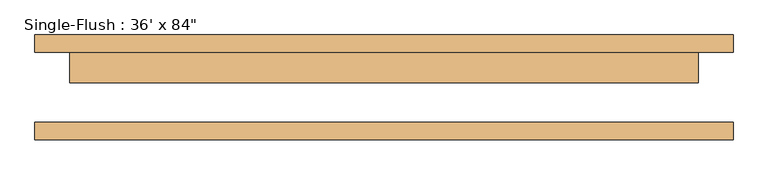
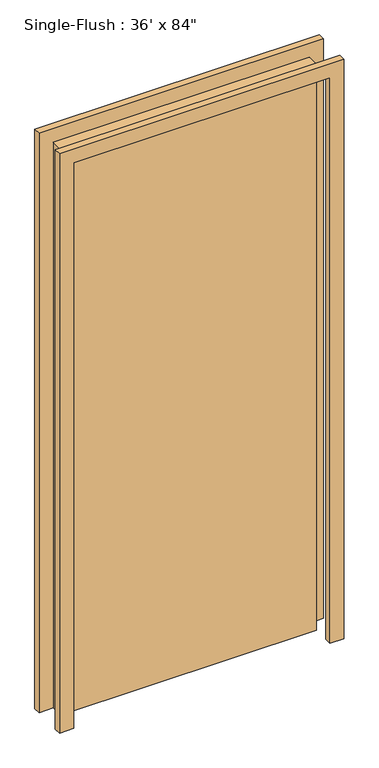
"""IFC4 building model written with IfcOpenShell, lengths in millimetres: door geometry."""

import ifcopenshell
import ifcopenshell.guid

model = None  # the IFC model being written
_history = None  # IfcOwnerHistory: only IFC2X3 demands one
_inside = {}  # id of a spatial element -> (the spatial element, [elements in it])
_under = {}  # id of a project, library or spatial element -> (it, [spatial elements below it])
_declared = {}  # id of a project -> (the project, [libraries it declares])
_typed = {}  # id of a type object -> (the type object, [elements of that type])
_made_of = {}  # id of a material, layer set ... -> (it, [elements and type objects made of it])


def new_model(schema):
    """Start an empty IFC model of exactly this schema.

    Asked for "IFC4X3", IfcOpenShell would pick the latest addendum, in which some entities
    have other attributes; the version numbers below select the first issue.
    IFC2X3 requires an IfcOwnerHistory on every rooted entity: one is made here for all.
    """
    global model, _history
    if schema == "IFC4X3":
        model = ifcopenshell.file(schema_version=(4, 3, 0, 0))
    else:
        model = ifcopenshell.file(schema=schema)
    _inside.clear()
    _under.clear()
    _declared.clear()
    _typed.clear()
    _made_of.clear()
    _history = None
    if model.schema == "IFC2X3":
        org = make("IfcOrganization", Name="unknown")
        user = make(
            "IfcPersonAndOrganization",
            ThePerson=make("IfcPerson", FamilyName="unknown"),
            TheOrganization=org,
        )
        app = make(
            "IfcApplication",
            ApplicationDeveloper=org,
            Version="unknown",
            ApplicationFullName="unknown",
            ApplicationIdentifier="unknown",
        )
        _history = make(
            "IfcOwnerHistory",
            OwningUser=user,
            OwningApplication=app,
            ChangeAction="ADDED",
            CreationDate=0,
        )
    return model


def make(cls, **values):
    """One entity of the class cls with the attributes given. An attribute that is None is left unset."""
    return model.create_entity(
        cls, **{name: value for name, value in values.items() if value is not None}
    )


def rooted(cls, **values):
    """An entity with a GlobalId (a new one), such as an element, a storey or a relation."""
    return make(cls, GlobalId=ifcopenshell.guid.new(), OwnerHistory=_history, **values)


def si_unit(unit_type, name, prefix=None):
    """IfcSIUnit, for example si_unit("LENGTHUNIT", "METRE", prefix="MILLI")."""
    return make("IfcSIUnit", UnitType=unit_type, Prefix=prefix, Name=name)


def assignment(units):
    """IfcUnitAssignment: the units of a project."""
    return None if units is None else make("IfcUnitAssignment", Units=units)


def point(xyz):
    """IfcCartesianPoint."""
    return None if xyz is None else make("IfcCartesianPoint", Coordinates=xyz)


def direction(xyz):
    """IfcDirection."""
    return None if xyz is None else make("IfcDirection", DirectionRatios=xyz)


def frame(location, z_axis=None, x_axis=None):
    """IfcAxis2Placement3D, a coordinate frame: its origin and axes. An axis left out is left unset."""
    return make(
        "IfcAxis2Placement3D",
        Location=point(location),
        Axis=direction(z_axis),
        RefDirection=direction(x_axis),
    )


def origin():
    """The frame at (0, 0, 0) with its axes left unset."""
    return frame((0.0, 0.0, 0.0))


def origin_with_axes():
    """The frame at (0, 0, 0) with the z axis (0, 0, 1) and the x axis (1, 0, 0) written out."""
    return frame((0.0, 0.0, 0.0), z_axis=(0.0, 0.0, 1.0), x_axis=(1.0, 0.0, 0.0))


def place(relative_to, where):
    """IfcLocalPlacement: puts the frame where relative to a parent placement (None: the world)."""
    return make(
        "IfcLocalPlacement", PlacementRelTo=relative_to, RelativePlacement=where
    )


def context(
    kind, dimensions, precision=None, world=None, true_north=None, identifier=None
):
    """IfcGeometricRepresentationContext, for example the 3D "Model" context."""
    return make(
        "IfcGeometricRepresentationContext",
        ContextIdentifier=identifier,
        ContextType=kind,
        CoordinateSpaceDimension=dimensions,
        Precision=precision,
        WorldCoordinateSystem=world,
        TrueNorth=true_north,
    )


def project(units=None, contexts=None):
    """IfcProject with its units and contexts."""
    return rooted(
        "IfcProject",
        Name="project",
        RepresentationContexts=contexts,
        UnitsInContext=assignment(units),
    )


def spatial(cls, under=None, at=None, **own):
    """A site, building, storey or space (cls), placed at a placement, below another one or the project."""
    s = rooted(cls, ObjectPlacement=at, **own)
    if under is not None:
        _under.setdefault(under.id(), (under, []))[1].append(s)
    return s


def polyline(points):
    """IfcPolyline through the points."""
    return make("IfcPolyline", Points=[point(p) for p in points])


def outline(outer, holes=None, kind="AREA"):
    """IfcArbitraryClosedProfileDef: a profile drawn as a closed curve; with holes, ...WithVoids."""
    if holes is None:
        return make("IfcArbitraryClosedProfileDef", ProfileType=kind, OuterCurve=outer)
    return make(
        "IfcArbitraryProfileDefWithVoids",
        ProfileType=kind,
        OuterCurve=outer,
        InnerCurves=holes,
    )


def extrude(swept, where, along, depth):
    """IfcExtrudedAreaSolid: the profile swept, set in the frame where, extruded along a direction by depth."""
    return make(
        "IfcExtrudedAreaSolid",
        SweptArea=swept,
        Position=where,
        ExtrudedDirection=direction(along),
        Depth=depth,
    )


def shape(context_of_items, identifier, shape_type, items):
    """IfcShapeRepresentation: the items that make up one representation, for example the "Body"."""
    return make(
        "IfcShapeRepresentation",
        ContextOfItems=context_of_items,
        RepresentationIdentifier=identifier,
        RepresentationType=shape_type,
        Items=items,
    )


def source(mapping_origin, context_of_items, identifier, shape_type, items):
    """IfcRepresentationMap: a shape defined once, which mapped items show again and again."""
    return make(
        "IfcRepresentationMap",
        MappingOrigin=mapping_origin,
        MappedRepresentation=shape(context_of_items, identifier, shape_type, items),
    )


def transform(
    local_origin,
    x_axis=None,
    y_axis=None,
    z_axis=None,
    scale=None,
    scale2=None,
    scale3=None,
    uniform=True,
):
    """IfcCartesianTransformationOperator3D, or its non-uniform kind. x_axis, y_axis, z_axis: its Axis1, 2, 3."""
    if uniform:
        return make(
            "IfcCartesianTransformationOperator3D",
            Axis1=direction(x_axis),
            Axis2=direction(y_axis),
            LocalOrigin=point(local_origin),
            Scale=scale,
            Axis3=direction(z_axis),
        )
    return make(
        "IfcCartesianTransformationOperator3DnonUniform",
        Axis1=direction(x_axis),
        Axis2=direction(y_axis),
        LocalOrigin=point(local_origin),
        Scale=scale,
        Axis3=direction(z_axis),
        Scale2=scale2,
        Scale3=scale3,
    )


def mapped(mapping_source, mapping_target):
    """IfcMappedItem: shows the shape of a source again, moved by a transform."""
    return make(
        "IfcMappedItem", MappingSource=mapping_source, MappingTarget=mapping_target
    )


def made_of(thing, what):
    """Note that an element or type object is made of a material, layer set ...; save() writes the relation."""
    if what is not None:
        _made_of.setdefault(what.id(), (what, []))[1].append(thing)
    return thing


def element(
    cls,
    number,
    at=None,
    inside=None,
    cuts=None,
    type_object=None,
    material=None,
    context=None,
    identifier="Body",
    shape_type=None,
    held_by="IfcProductDefinitionShape",
    body=None,
    shapes=None,
    **own,
):
    """One element of the class cls, such as IfcWall. Its Tag is "e" and its number.

    at: its placement. inside: the storey or other place that contains it. cuts: it is an
    opening in that element (IfcRelVoidsElement). A single representation is given by context,
    identifier, shape_type and body (its items); several are given by shapes. held_by: the class
    of the entity that holds the representations. save() writes the other relations.
    """
    e = rooted(cls, Tag="e%d" % number, ObjectPlacement=at, **own)
    if body is not None:
        shapes = [shape(context, identifier, shape_type, body)]
    if shapes is not None:
        e.Representation = make(held_by, Representations=shapes)
    if inside is not None:
        _inside.setdefault(inside.id(), (inside, []))[1].append(e)
    if cuts is not None:
        rooted(
            "IfcRelVoidsElement", RelatingBuildingElement=cuts, RelatedOpeningElement=e
        )
    if type_object is not None:
        _typed.setdefault(type_object.id(), (type_object, []))[1].append(e)
    return made_of(e, material)


def aggregate(whole, parts):
    """IfcRelAggregates: a whole, such as a stair, and the parts it consists of."""
    return rooted("IfcRelAggregates", RelatingObject=whole, RelatedObjects=parts)


def save(model, path):
    """Write the relations noted so far, then the file.

    IfcRelAggregates (storeys below a building ...), IfcRelContainedInSpatialStructure (elements
    in a storey), IfcRelDefinesByType, IfcRelAssociatesMaterial and IfcRelDeclares: one each for
    every whole, place, type object, material and project.
    """
    for whole, parts in _under.values():
        aggregate(whole, parts)
    for where, things in _inside.values():
        rooted(
            "IfcRelContainedInSpatialStructure",
            RelatedElements=things,
            RelatingStructure=where,
        )
    for kind, things in _typed.values():
        rooted("IfcRelDefinesByType", RelatedObjects=things, RelatingType=kind)
    for what, things in _made_of.values():
        rooted("IfcRelAssociatesMaterial", RelatedObjects=things, RelatingMaterial=what)
    for by, libraries in _declared.values():
        rooted("IfcRelDeclares", RelatingContext=by, RelatedDefinitions=libraries)
    model.write(path)


def door_30197504(model_context):
    return source(origin(), model_context, "Body", "SweptSolid", [
        extrude(outline(polyline([(2184.4, -508.0), (0.0, -508.0), (0.0, -457.2), (2133.6, -457.2), (2133.6, 457.2), (0.0, 457.2), (0.0, 508.0), (2184.4, 508.0), (2184.4, -508.0)])), frame((0.0, 50.8, 0.0), z_axis=(0.0, 1.0, 0.0), x_axis=(0.0, 0.0, 1.0)), (0.0, 0.0, 1.0), 25.4),
        extrude(outline(polyline([(2184.4, 508.0), (2184.4, -508.0), (0.0, -508.0), (0.0, -457.2), (2133.6, -457.2), (2133.6, 457.2), (0.0, 457.2), (0.0, 508.0), (2184.4, 508.0)])), frame((0.0, -76.2, 0.0), z_axis=(0.0, 1.0, 0.0), x_axis=(0.0, 0.0, 1.0)), (0.0, 0.0, 1.0), 25.4),
        extrude(outline(polyline([(457.2, 6.35), (-457.2, 6.35), (-457.2, 50.8), (457.2, 50.8), (457.2, 6.35)])), origin_with_axes(), (0.0, 0.0, 1.0), 2133.6),
    ])


if __name__ == "__main__":
    model = new_model("IFC4")
    model_context = context("Model", 3, world=origin())
    ifc_project = project(units=[si_unit("LENGTHUNIT", "METRE", prefix="MILLI")], contexts=[model_context])
    site = spatial("IfcSite", under=ifc_project)
    building = spatial("IfcBuilding", under=site)
    placement = place(None, origin())
    door_shape = door_30197504(model_context)
    element("IfcDoor", 1, ObjectType="Single-Flush : 36' x 84\"", at=placement, inside=building, context=model_context, shape_type="MappedRepresentation", body=[
        mapped(door_shape, transform((0.0, 0.0, 0.0), x_axis=(1.0, 0.0, 0.0), y_axis=(0.0, 1.0, 0.0), z_axis=(0.0, 0.0, 1.0))),
    ])
    save(model, "model.ifc")
